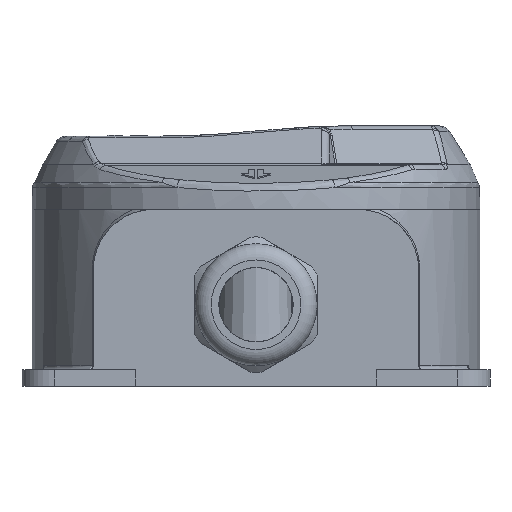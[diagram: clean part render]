
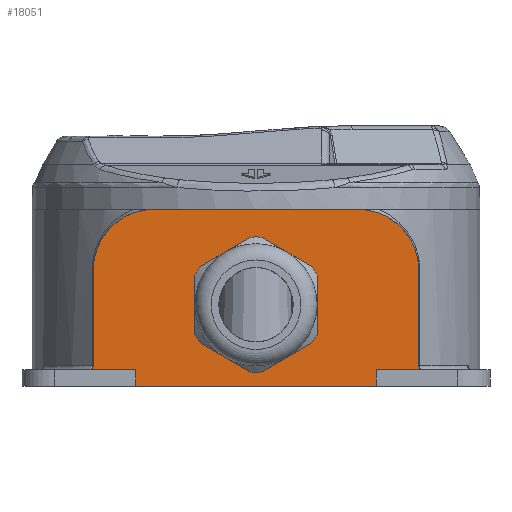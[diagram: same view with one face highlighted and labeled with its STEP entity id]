
A CAD part, left-side view. The second image highlights one B-rep face of the part: STEP entity #18051.
In plain terms, the highlighted planar face has unit normal (-1, 0, 0).
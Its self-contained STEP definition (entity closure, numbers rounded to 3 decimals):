
#492=PLANE('',#19150);
#1125=CIRCLE('',#19151,13.188);
#1126=CIRCLE('',#19152,15.);
#1127=CIRCLE('',#19153,15.);
#1128=CIRCLE('',#19154,1.);
#1129=CIRCLE('',#19155,1.);
#2341=ORIENTED_EDGE('',*,*,#7430,.T.);
#2342=ORIENTED_EDGE('',*,*,#7425,.T.);
#2343=ORIENTED_EDGE('',*,*,#7431,.T.);
#2344=ORIENTED_EDGE('',*,*,#7301,.T.);
#2345=ORIENTED_EDGE('',*,*,#7432,.T.);
#2346=ORIENTED_EDGE('',*,*,#7429,.F.);
#2347=ORIENTED_EDGE('',*,*,#7433,.T.);
#2348=ORIENTED_EDGE('',*,*,#7366,.F.);
#2349=ORIENTED_EDGE('',*,*,#7405,.T.);
#2350=ORIENTED_EDGE('',*,*,#7254,.T.);
#2351=ORIENTED_EDGE('',*,*,#7404,.T.);
#2352=ORIENTED_EDGE('',*,*,#7351,.F.);
#2353=ORIENTED_EDGE('',*,*,#7434,.T.);
#7254=EDGE_CURVE('',#9864,#9865,#11580,.T.);
#7301=EDGE_CURVE('',#9909,#9910,#11598,.T.);
#7351=EDGE_CURVE('',#9948,#9949,#11625,.T.);
#7366=EDGE_CURVE('',#9958,#9959,#11635,.T.);
#7404=EDGE_CURVE('',#9865,#9949,#11650,.F.);
#7405=EDGE_CURVE('',#9958,#9864,#11651,.T.);
#7425=EDGE_CURVE('',#9989,#9992,#11663,.T.);
#7429=EDGE_CURVE('',#9996,#9993,#11667,.T.);
#7430=EDGE_CURVE('',#9997,#9997,#1125,.F.);
#7431=EDGE_CURVE('',#9992,#9909,#1126,.T.);
#7432=EDGE_CURVE('',#9910,#9993,#1127,.T.);
#7433=EDGE_CURVE('',#9996,#9959,#1128,.F.);
#7434=EDGE_CURVE('',#9948,#9989,#1129,.F.);
#9864=VERTEX_POINT('',#24643);
#9865=VERTEX_POINT('',#24644);
#9909=VERTEX_POINT('',#24754);
#9910=VERTEX_POINT('',#24755);
#9948=VERTEX_POINT('',#24898);
#9949=VERTEX_POINT('',#24900);
#9958=VERTEX_POINT('',#24931);
#9959=VERTEX_POINT('',#24932);
#9989=VERTEX_POINT('',#25094);
#9992=VERTEX_POINT('',#25099);
#9993=VERTEX_POINT('',#25103);
#9996=VERTEX_POINT('',#25108);
#9997=VERTEX_POINT('',#25112);
#11580=LINE('',#24642,#13129);
#11598=LINE('',#24753,#13147);
#11625=LINE('',#24899,#13174);
#11635=LINE('',#24930,#13184);
#11650=LINE('',#25051,#13199);
#11651=LINE('',#25053,#13200);
#11663=LINE('',#25100,#13212);
#11667=LINE('',#25109,#13216);
#13129=VECTOR('',#20369,1000.);
#13147=VECTOR('',#20447,1000.);
#13174=VECTOR('',#20538,1000.);
#13184=VECTOR('',#20564,1000.);
#13199=VECTOR('',#20649,1000.);
#13200=VECTOR('',#20652,1000.);
#13212=VECTOR('',#20702,1000.);
#13216=VECTOR('',#20708,1000.);
#14772=EDGE_LOOP('',(#2341));
#14773=EDGE_LOOP('',(#2342,#2343,#2344,#2345,#2346,#2347,#2348,#2349,#2350,
#2351,#2352,#2353));
#15912=FACE_BOUND('',#14772,.T.);
#15913=FACE_BOUND('',#14773,.T.);
#18051=ADVANCED_FACE('',(#15912,#15913),#492,.T.);
#19150=AXIS2_PLACEMENT_3D('',#25110,#20709,#20710);
#19151=AXIS2_PLACEMENT_3D('',#25111,#20711,#20712);
#19152=AXIS2_PLACEMENT_3D('',#25113,#20713,#20714);
#19153=AXIS2_PLACEMENT_3D('',#25114,#20715,#20716);
#19154=AXIS2_PLACEMENT_3D('',#25115,#20717,#20718);
#19155=AXIS2_PLACEMENT_3D('',#25116,#20719,#20720);
#20369=DIRECTION('',(0.,-1.,0.));
#20447=DIRECTION('',(0.,1.,0.));
#20538=DIRECTION('',(0.,1.,0.));
#20564=DIRECTION('',(0.,1.,0.));
#20649=DIRECTION('',(0.,0.,-1.));
#20652=DIRECTION('',(0.,0.,-1.));
#20702=DIRECTION('',(0.,0.,1.));
#20708=DIRECTION('',(0.,0.,1.));
#20709=DIRECTION('',(-1.,0.,0.));
#20710=DIRECTION('',(0.,0.,1.));
#20711=DIRECTION('',(-1.,0.,0.));
#20712=DIRECTION('',(0.,0.,1.));
#20713=DIRECTION('',(-1.,0.,0.));
#20714=DIRECTION('',(0.,0.,1.));
#20715=DIRECTION('',(-1.,0.,0.));
#20716=DIRECTION('',(0.,0.,1.));
#20717=DIRECTION('',(-1.,0.,0.));
#20718=DIRECTION('',(0.,0.,1.));
#20719=DIRECTION('',(-1.,0.,0.));
#20720=DIRECTION('',(0.,0.,1.));
#24642=CARTESIAN_POINT('',(-57.499,40.,0.));
#24643=CARTESIAN_POINT('',(-57.499,29.529,0.));
#24644=CARTESIAN_POINT('',(-57.499,-29.529,0.));
#24753=CARTESIAN_POINT('',(-57.499,40.,43.45));
#24754=CARTESIAN_POINT('',(-57.499,-25.,43.45));
#24755=CARTESIAN_POINT('',(-57.499,25.,43.45));
#24898=CARTESIAN_POINT('',(-57.499,-41.,4.));
#24899=CARTESIAN_POINT('',(-57.499,0.,4.));
#24900=CARTESIAN_POINT('',(-57.499,-29.529,4.));
#24930=CARTESIAN_POINT('',(-57.499,0.,4.));
#24931=CARTESIAN_POINT('',(-57.499,29.529,4.));
#24932=CARTESIAN_POINT('',(-57.499,41.,4.));
#25051=CARTESIAN_POINT('',(-57.499,-29.529,4.));
#25053=CARTESIAN_POINT('',(-57.499,29.529,4.));
#25094=CARTESIAN_POINT('',(-57.499,-40.,5.));
#25099=CARTESIAN_POINT('',(-57.499,-40.,28.45));
#25100=CARTESIAN_POINT('',(-57.499,-40.,-125.565));
#25103=CARTESIAN_POINT('',(-57.499,40.,28.45));
#25108=CARTESIAN_POINT('',(-57.499,40.,5.));
#25109=CARTESIAN_POINT('',(-57.499,40.,-125.565));
#25110=CARTESIAN_POINT('',(-57.499,40.,-125.565));
#25111=CARTESIAN_POINT('',(-57.499,0.,20.));
#25112=CARTESIAN_POINT('',(-57.499,0.,33.188));
#25113=CARTESIAN_POINT('',(-57.499,-25.,28.45));
#25114=CARTESIAN_POINT('',(-57.499,25.,28.45));
#25115=CARTESIAN_POINT('',(-57.499,41.,5.));
#25116=CARTESIAN_POINT('',(-57.499,-41.,5.));
